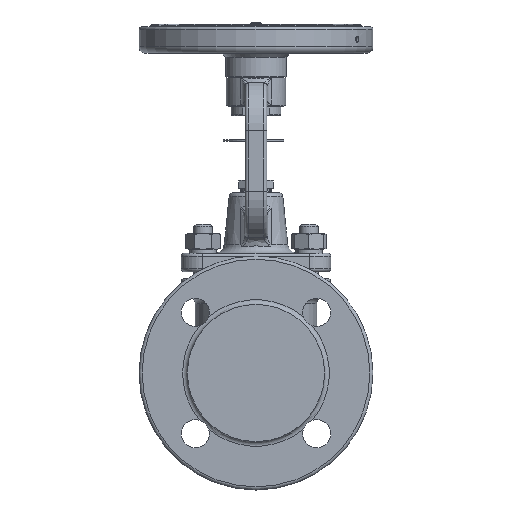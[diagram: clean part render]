
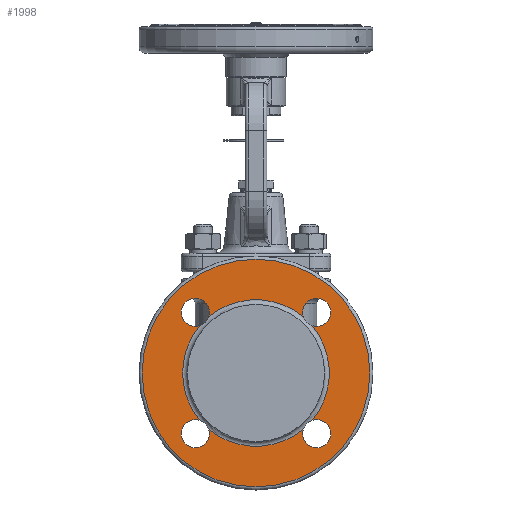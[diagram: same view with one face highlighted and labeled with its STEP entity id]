
A CAD part, front view. The second image highlights one B-rep face of the part: STEP entity #1998.
In plain terms, the highlighted planar face has unit normal (0, -1, 0).
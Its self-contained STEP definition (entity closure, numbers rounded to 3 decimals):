
#1998=ADVANCED_FACE('',(#3144,#3145),#2800,.F.);
#2800=PLANE('',#13107);
#3144=FACE_BOUND('',#3488,.T.);
#3145=FACE_BOUND('',#3489,.T.);
#3488=EDGE_LOOP('',(#5262));
#3489=EDGE_LOOP('',(#5263,#5264,#5265,#5266,#5267,#5268,#5269,#5270));
#4525=CIRCLE('',#13098,73.);
#4526=CIRCLE('',#13099,9.);
#4527=CIRCLE('',#13100,47.);
#4528=CIRCLE('',#13101,9.);
#4529=CIRCLE('',#13102,47.);
#4530=CIRCLE('',#13103,9.);
#4531=CIRCLE('',#13104,47.);
#4532=CIRCLE('',#13105,9.);
#4533=CIRCLE('',#13106,47.);
#5262=ORIENTED_EDGE('',*,*,#10173,.T.);
#5263=ORIENTED_EDGE('',*,*,#10174,.F.);
#5264=ORIENTED_EDGE('',*,*,#10175,.T.);
#5265=ORIENTED_EDGE('',*,*,#10176,.T.);
#5266=ORIENTED_EDGE('',*,*,#10177,.T.);
#5267=ORIENTED_EDGE('',*,*,#10178,.F.);
#5268=ORIENTED_EDGE('',*,*,#10179,.T.);
#5269=ORIENTED_EDGE('',*,*,#10180,.T.);
#5270=ORIENTED_EDGE('',*,*,#10181,.T.);
#8973=VERTEX_POINT('',#20737);
#8974=VERTEX_POINT('',#20739);
#8975=VERTEX_POINT('',#20740);
#8976=VERTEX_POINT('',#20742);
#8977=VERTEX_POINT('',#20744);
#8978=VERTEX_POINT('',#20746);
#8979=VERTEX_POINT('',#20748);
#8980=VERTEX_POINT('',#20750);
#8981=VERTEX_POINT('',#20752);
#10173=EDGE_CURVE('',#8973,#8973,#4525,.T.);
#10174=EDGE_CURVE('',#8974,#8975,#4526,.T.);
#10175=EDGE_CURVE('',#8974,#8976,#4527,.T.);
#10176=EDGE_CURVE('',#8976,#8977,#4528,.T.);
#10177=EDGE_CURVE('',#8977,#8978,#4529,.T.);
#10178=EDGE_CURVE('',#8979,#8978,#4530,.T.);
#10179=EDGE_CURVE('',#8979,#8980,#4531,.T.);
#10180=EDGE_CURVE('',#8980,#8981,#4532,.T.);
#10181=EDGE_CURVE('',#8981,#8975,#4533,.T.);
#13098=AXIS2_PLACEMENT_3D('',#20736,#14574,#14575);
#13099=AXIS2_PLACEMENT_3D('',#20738,#14576,#14577);
#13100=AXIS2_PLACEMENT_3D('',#20741,#14578,#14579);
#13101=AXIS2_PLACEMENT_3D('',#20743,#14580,#14581);
#13102=AXIS2_PLACEMENT_3D('',#20745,#14582,#14583);
#13103=AXIS2_PLACEMENT_3D('',#20747,#14584,#14585);
#13104=AXIS2_PLACEMENT_3D('',#20749,#14586,#14587);
#13105=AXIS2_PLACEMENT_3D('',#20751,#14588,#14589);
#13106=AXIS2_PLACEMENT_3D('',#20753,#14590,#14591);
#13107=AXIS2_PLACEMENT_3D('',#20754,#14592,#14593);
#14574=DIRECTION('',(0.,-1.,0.));
#14575=DIRECTION('',(-1.,0.,0.));
#14576=DIRECTION('',(0.,-1.,0.));
#14577=DIRECTION('',(-1.,0.,0.));
#14578=DIRECTION('',(0.,1.,0.));
#14579=DIRECTION('',(-1.,0.,0.));
#14580=DIRECTION('',(0.,1.,0.));
#14581=DIRECTION('',(-1.,0.,0.));
#14582=DIRECTION('',(0.,1.,0.));
#14583=DIRECTION('',(-1.,0.,0.));
#14584=DIRECTION('',(0.,-1.,0.));
#14585=DIRECTION('',(-1.,0.,0.));
#14586=DIRECTION('',(0.,1.,0.));
#14587=DIRECTION('',(-1.,0.,0.));
#14588=DIRECTION('',(0.,1.,0.));
#14589=DIRECTION('',(-1.,0.,0.));
#14590=DIRECTION('',(0.,1.,0.));
#14591=DIRECTION('',(-1.,0.,0.));
#14592=DIRECTION('',(0.,1.,0.));
#14593=DIRECTION('',(-1.,0.,0.));
#20736=CARTESIAN_POINT('',(0.,-97.,0.));
#20737=CARTESIAN_POINT('',(-73.,-97.,0.));
#20738=CARTESIAN_POINT('',(-38.891,-97.,38.891));
#20739=CARTESIAN_POINT('',(-30.432,-97.,35.818));
#20740=CARTESIAN_POINT('',(-35.818,-97.,30.432));
#20741=CARTESIAN_POINT('',(0.,-97.,0.));
#20742=CARTESIAN_POINT('',(30.432,-97.,35.818));
#20743=CARTESIAN_POINT('',(38.891,-97.,38.891));
#20744=CARTESIAN_POINT('',(35.818,-97.,30.432));
#20745=CARTESIAN_POINT('',(0.,-97.,0.));
#20746=CARTESIAN_POINT('',(35.818,-97.,-30.432));
#20747=CARTESIAN_POINT('',(38.891,-97.,-38.891));
#20748=CARTESIAN_POINT('',(30.432,-97.,-35.818));
#20749=CARTESIAN_POINT('',(0.,-97.,0.));
#20750=CARTESIAN_POINT('',(-30.432,-97.,-35.818));
#20751=CARTESIAN_POINT('',(-38.891,-97.,-38.891));
#20752=CARTESIAN_POINT('',(-35.818,-97.,-30.432));
#20753=CARTESIAN_POINT('',(0.,-97.,0.));
#20754=CARTESIAN_POINT('',(0.,-97.,44.));
